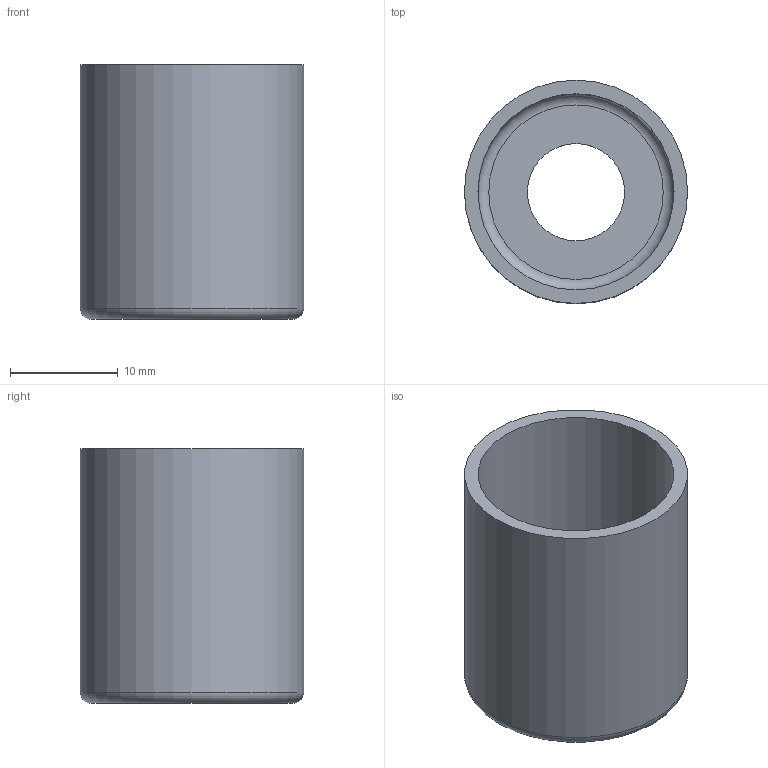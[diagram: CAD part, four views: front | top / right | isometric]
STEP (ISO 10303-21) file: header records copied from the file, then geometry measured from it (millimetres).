
FILE_DESCRIPTION(('FreeCAD Model'),'2;1');
FILE_NAME('Open CASCADE Shape Model','2026-10-09T19:39:24',(''),(''), 'Open CASCADE STEP processor 7.8','FreeCAD','Unknown');
FILE_SCHEMA(('AUTOMOTIVE_DESIGN { 1 0 10303 214 1 1 1 1 }'));
Length unit declared in the file: millimetre
Products named in the file (1): Body
Bounding box: 20.76 x 20.76 x 23.68 mm (x, y, z)
Volume: 2305.9 mm3; surface area: 3327.5 mm2
Topology: 1 solids, 1 shells, 8 faces, 13 edges, 8 vertices
Faces by surface type: plane 3, cylinder 3, torus 2
Full cylindrical faces by diameter (mm): 9.042 x1, 18.235 x1, 20.764 x1
Entity records: 219 total; most frequent: DIRECTION 41, CARTESIAN_POINT 30, ORIENTED_EDGE 26, AXIS2_PLACEMENT_3D 19, EDGE_CURVE 13, FACE_BOUND 11, EDGE_LOOP 11, CIRCLE 10
